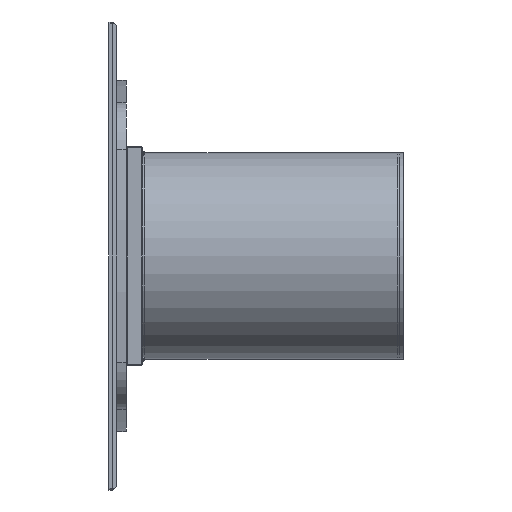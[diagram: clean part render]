
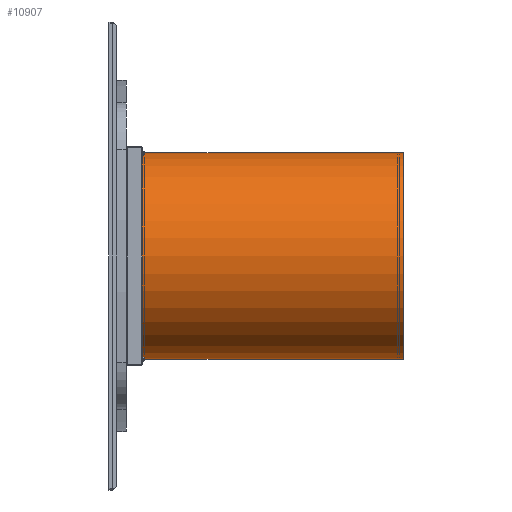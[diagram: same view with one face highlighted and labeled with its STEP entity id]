
A CAD part, left-side view. The second image highlights one B-rep face of the part: STEP entity #10907.
In plain terms, the highlighted cylindrical face has radius 265 mm (diameter 530 mm), a partial arc.
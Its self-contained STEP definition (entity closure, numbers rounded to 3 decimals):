
#55 = EDGE_CURVE ( 'NONE', #19191, #996, #5222, .T. ) ;
#996 = VERTEX_POINT ( 'NONE', #5784 ) ;
#1354 = VERTEX_POINT ( 'NONE', #12562 ) ;
#1465 = CARTESIAN_POINT ( 'NONE',  ( 0., 670., -265. ) ) ;
#1588 = EDGE_CURVE ( 'NONE', #1354, #18915, #17079, .T. ) ;
#2106 = CARTESIAN_POINT ( 'NONE',  ( 0., 670., 265. ) ) ;
#2652 = LINE ( 'NONE', #1465, #9625 ) ;
#2659 = CARTESIAN_POINT ( 'NONE',  ( 0., 670., 0. ) ) ;
#2781 = CARTESIAN_POINT ( 'NONE',  ( 0., 0., -265. ) ) ;
#2850 = ORIENTED_EDGE ( 'NONE', *, *, #13858, .T. ) ;
#3725 = EDGE_CURVE ( 'NONE', #18915, #996, #8646, .T. ) ;
#3780 = ORIENTED_EDGE ( 'NONE', *, *, #3725, .F. ) ;
#3821 = DIRECTION ( 'NONE',  ( 0., 0., 1. ) ) ;
#5222 = CIRCLE ( 'NONE', #16373, 265. ) ;
#5784 = CARTESIAN_POINT ( 'NONE',  ( 0., 0., 265. ) ) ;
#5819 = DIRECTION ( 'NONE',  ( 0., -1., 0. ) ) ;
#6193 = DIRECTION ( 'NONE',  ( 0., -1., 0. ) ) ;
#6286 = CARTESIAN_POINT ( 'NONE',  ( 0., 670., 0. ) ) ;
#6375 = FACE_OUTER_BOUND ( 'NONE', #15517, .T. ) ;
#6731 = DIRECTION ( 'NONE',  ( 0., 1., 0. ) ) ;
#7122 = DIRECTION ( 'NONE',  ( 0., -1., 0. ) ) ;
#7320 = DIRECTION ( 'NONE',  ( 0., 1., 0. ) ) ;
#7652 = CYLINDRICAL_SURFACE ( 'NONE', #8585, 265. ) ;
#8585 = AXIS2_PLACEMENT_3D ( 'NONE', #6286, #6193, #10670 ) ;
#8646 = LINE ( 'NONE', #11362, #10774 ) ;
#9625 = VECTOR ( 'NONE', #7122, 1000. ) ;
#10670 = DIRECTION ( 'NONE',  ( 0., 0., -1. ) ) ;
#10774 = VECTOR ( 'NONE', #5819, 1000. ) ;
#10907 = ADVANCED_FACE ( 'NONE', ( #6375 ), #7652, .T. ) ;
#11362 = CARTESIAN_POINT ( 'NONE',  ( 0., 670., 265. ) ) ;
#11406 = DIRECTION ( 'NONE',  ( 0., 0., 1. ) ) ;
#12562 = CARTESIAN_POINT ( 'NONE',  ( 0., 670., -265. ) ) ;
#13858 = EDGE_CURVE ( 'NONE', #1354, #19191, #2652, .T. ) ;
#14312 = AXIS2_PLACEMENT_3D ( 'NONE', #2659, #7320, #11406 ) ;
#15517 = EDGE_LOOP ( 'NONE', ( #3780, #17541, #2850, #18741 ) ) ;
#16373 = AXIS2_PLACEMENT_3D ( 'NONE', #17009, #6731, #3821 ) ;
#17009 = CARTESIAN_POINT ( 'NONE',  ( 0., 0., 0. ) ) ;
#17079 = CIRCLE ( 'NONE', #14312, 265. ) ;
#17541 = ORIENTED_EDGE ( 'NONE', *, *, #1588, .F. ) ;
#18741 = ORIENTED_EDGE ( 'NONE', *, *, #55, .T. ) ;
#18915 = VERTEX_POINT ( 'NONE', #2106 ) ;
#19191 = VERTEX_POINT ( 'NONE', #2781 ) ;
